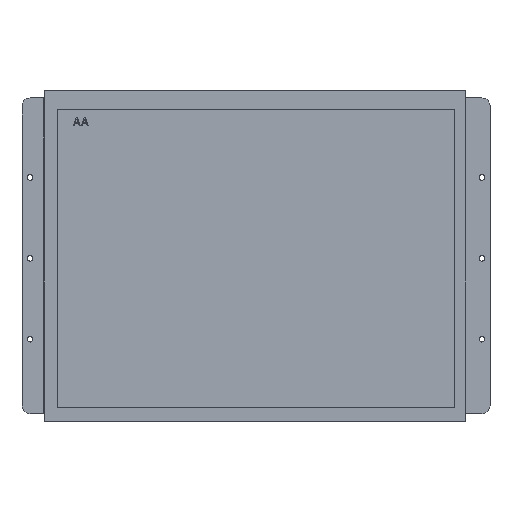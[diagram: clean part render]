
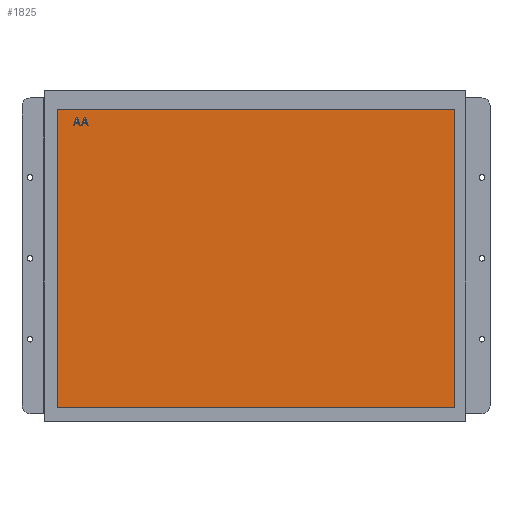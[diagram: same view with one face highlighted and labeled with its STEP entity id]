
A CAD part, top view. The second image highlights one B-rep face of the part: STEP entity #1825.
In plain terms, the highlighted planar face has unit normal (0, 0, 1).
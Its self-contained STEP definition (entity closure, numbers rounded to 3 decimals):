
#547=DIRECTION('',(0.,-1.,0.));
#548=VECTOR('',#547,184.32);
#549=CARTESIAN_POINT('',(-122.88,92.15,6.55));
#550=LINE('',#549,#548);
#551=DIRECTION('',(-1.,0.,0.));
#552=VECTOR('',#551,245.76);
#553=CARTESIAN_POINT('',(122.88,92.15,6.55));
#554=LINE('',#553,#552);
#555=DIRECTION('',(0.,1.,0.));
#556=VECTOR('',#555,184.32);
#557=CARTESIAN_POINT('',(122.88,-92.17,6.55));
#558=LINE('',#557,#556);
#559=DIRECTION('',(1.,0.,0.));
#560=VECTOR('',#559,245.76);
#561=CARTESIAN_POINT('',(-122.88,-92.17,6.55));
#562=LINE('',#561,#560);
#563=DIRECTION('',(0.316,-0.949,0.));
#564=VECTOR('',#563,5.27);
#565=CARTESIAN_POINT('',(-110.38,87.15,6.55));
#566=LINE('',#565,#564);
#567=DIRECTION('',(1.,0.,0.));
#568=VECTOR('',#567,0.833);
#569=CARTESIAN_POINT('',(-111.213,87.15,6.55));
#570=LINE('',#569,#568);
#571=DIRECTION('',(0.316,0.949,0.));
#572=VECTOR('',#571,5.27);
#573=CARTESIAN_POINT('',(-112.88,82.15,6.55));
#574=LINE('',#573,#572);
#575=DIRECTION('',(-1.,0.,0.));
#576=VECTOR('',#575,0.625);
#577=CARTESIAN_POINT('',(-112.255,82.15,6.55));
#578=LINE('',#577,#576);
#579=DIRECTION('',(-0.31,-0.951,0.));
#580=VECTOR('',#579,1.343);
#581=CARTESIAN_POINT('',(-111.838,83.427,6.55));
#582=LINE('',#581,#580);
#583=DIRECTION('',(-1.,0.,0.));
#584=VECTOR('',#583,2.083);
#585=CARTESIAN_POINT('',(-109.755,83.427,6.55));
#586=LINE('',#585,#584);
#587=DIRECTION('',(-0.31,0.951,0.));
#588=VECTOR('',#587,1.343);
#589=CARTESIAN_POINT('',(-109.338,82.15,6.55));
#590=LINE('',#589,#588);
#591=DIRECTION('',(-1.,0.,0.));
#592=VECTOR('',#591,0.625);
#593=CARTESIAN_POINT('',(-108.713,82.15,6.55));
#594=LINE('',#593,#592);
#607=DIRECTION('',(0.316,-0.949,0.));
#608=VECTOR('',#607,5.27);
#609=CARTESIAN_POINT('',(-105.38,87.15,6.55));
#610=LINE('',#609,#608);
#611=DIRECTION('',(1.,0.,0.));
#612=VECTOR('',#611,0.833);
#613=CARTESIAN_POINT('',(-106.213,87.15,6.55));
#614=LINE('',#613,#612);
#615=DIRECTION('',(0.316,0.949,0.));
#616=VECTOR('',#615,5.27);
#617=CARTESIAN_POINT('',(-107.88,82.15,6.55));
#618=LINE('',#617,#616);
#619=DIRECTION('',(-1.,0.,0.));
#620=VECTOR('',#619,0.625);
#621=CARTESIAN_POINT('',(-107.255,82.15,6.55));
#622=LINE('',#621,#620);
#623=DIRECTION('',(-0.31,-0.951,0.));
#624=VECTOR('',#623,1.343);
#625=CARTESIAN_POINT('',(-106.838,83.427,6.55));
#626=LINE('',#625,#624);
#627=DIRECTION('',(-1.,0.,0.));
#628=VECTOR('',#627,2.083);
#629=CARTESIAN_POINT('',(-104.755,83.427,6.55));
#630=LINE('',#629,#628);
#631=DIRECTION('',(-0.31,0.951,0.));
#632=VECTOR('',#631,1.343);
#633=CARTESIAN_POINT('',(-104.338,82.15,6.55));
#634=LINE('',#633,#632);
#635=DIRECTION('',(-1.,0.,0.));
#636=VECTOR('',#635,0.625);
#637=CARTESIAN_POINT('',(-103.713,82.15,6.55));
#638=LINE('',#637,#636);
#827=CARTESIAN_POINT('',(-122.88,92.15,6.55));
#828=CARTESIAN_POINT('',(-122.88,-92.17,6.55));
#829=VERTEX_POINT('',#827);
#830=VERTEX_POINT('',#828);
#831=CARTESIAN_POINT('',(122.88,-92.17,6.55));
#832=VERTEX_POINT('',#831);
#833=CARTESIAN_POINT('',(122.88,92.15,6.55));
#834=VERTEX_POINT('',#833);
#843=CARTESIAN_POINT('',(-110.38,87.15,6.55));
#844=CARTESIAN_POINT('',(-108.713,82.15,6.55));
#845=VERTEX_POINT('',#843);
#846=VERTEX_POINT('',#844);
#847=CARTESIAN_POINT('',(-109.338,82.15,6.55));
#848=VERTEX_POINT('',#847);
#849=CARTESIAN_POINT('',(-109.755,83.427,6.55));
#850=VERTEX_POINT('',#849);
#851=CARTESIAN_POINT('',(-111.838,83.427,6.55));
#852=VERTEX_POINT('',#851);
#853=CARTESIAN_POINT('',(-112.255,82.15,6.55));
#854=VERTEX_POINT('',#853);
#855=CARTESIAN_POINT('',(-112.88,82.15,6.55));
#856=VERTEX_POINT('',#855);
#857=CARTESIAN_POINT('',(-111.213,87.15,6.55));
#858=VERTEX_POINT('',#857);
#865=CARTESIAN_POINT('',(-105.38,87.15,6.55));
#866=CARTESIAN_POINT('',(-103.713,82.15,6.55));
#867=VERTEX_POINT('',#865);
#868=VERTEX_POINT('',#866);
#869=CARTESIAN_POINT('',(-104.338,82.15,6.55));
#870=VERTEX_POINT('',#869);
#871=CARTESIAN_POINT('',(-104.755,83.427,6.55));
#872=VERTEX_POINT('',#871);
#873=CARTESIAN_POINT('',(-106.838,83.427,6.55));
#874=VERTEX_POINT('',#873);
#875=CARTESIAN_POINT('',(-107.255,82.15,6.55));
#876=VERTEX_POINT('',#875);
#877=CARTESIAN_POINT('',(-107.88,82.15,6.55));
#878=VERTEX_POINT('',#877);
#879=CARTESIAN_POINT('',(-106.213,87.15,6.55));
#880=VERTEX_POINT('',#879);
#1778=CARTESIAN_POINT('',(-131.,-100.61,6.55));
#1779=DIRECTION('',(0.,0.,1.));
#1780=DIRECTION('',(1.,0.,0.));
#1781=AXIS2_PLACEMENT_3D('',#1778,#1779,#1780);
#1782=PLANE('',#1781);
#1783=ORIENTED_EDGE('',*,*,#1730,.F.);
#1784=ORIENTED_EDGE('',*,*,#1745,.F.);
#1785=ORIENTED_EDGE('',*,*,#1759,.F.);
#1786=ORIENTED_EDGE('',*,*,#1772,.F.);
#1787=EDGE_LOOP('',(#1783,#1784,#1785,#1786));
#1788=FACE_OUTER_BOUND('',#1787,.F.);
#1790=ORIENTED_EDGE('',*,*,#1789,.F.);
#1792=ORIENTED_EDGE('',*,*,#1791,.F.);
#1794=ORIENTED_EDGE('',*,*,#1793,.F.);
#1796=ORIENTED_EDGE('',*,*,#1795,.F.);
#1798=ORIENTED_EDGE('',*,*,#1797,.F.);
#1800=ORIENTED_EDGE('',*,*,#1799,.F.);
#1802=ORIENTED_EDGE('',*,*,#1801,.F.);
#1804=ORIENTED_EDGE('',*,*,#1803,.F.);
#1805=EDGE_LOOP('',(#1790,#1792,#1794,#1796,#1798,#1800,#1802,#1804));
#1806=FACE_BOUND('',#1805,.F.);
#1808=ORIENTED_EDGE('',*,*,#1807,.F.);
#1810=ORIENTED_EDGE('',*,*,#1809,.F.);
#1812=ORIENTED_EDGE('',*,*,#1811,.F.);
#1814=ORIENTED_EDGE('',*,*,#1813,.F.);
#1816=ORIENTED_EDGE('',*,*,#1815,.F.);
#1818=ORIENTED_EDGE('',*,*,#1817,.F.);
#1820=ORIENTED_EDGE('',*,*,#1819,.F.);
#1822=ORIENTED_EDGE('',*,*,#1821,.F.);
#1823=EDGE_LOOP('',(#1808,#1810,#1812,#1814,#1816,#1818,#1820,#1822));
#1824=FACE_BOUND('',#1823,.F.);
#1730=EDGE_CURVE('',#829,#830,#550,.T.);
#1745=EDGE_CURVE('',#834,#829,#554,.T.);
#1759=EDGE_CURVE('',#832,#834,#558,.T.);
#1772=EDGE_CURVE('',#830,#832,#562,.T.);
#1789=EDGE_CURVE('',#845,#846,#566,.T.);
#1791=EDGE_CURVE('',#858,#845,#570,.T.);
#1793=EDGE_CURVE('',#856,#858,#574,.T.);
#1795=EDGE_CURVE('',#854,#856,#578,.T.);
#1797=EDGE_CURVE('',#852,#854,#582,.T.);
#1799=EDGE_CURVE('',#850,#852,#586,.T.);
#1801=EDGE_CURVE('',#848,#850,#590,.T.);
#1803=EDGE_CURVE('',#846,#848,#594,.T.);
#1807=EDGE_CURVE('',#867,#868,#610,.T.);
#1809=EDGE_CURVE('',#880,#867,#614,.T.);
#1811=EDGE_CURVE('',#878,#880,#618,.T.);
#1813=EDGE_CURVE('',#876,#878,#622,.T.);
#1815=EDGE_CURVE('',#874,#876,#626,.T.);
#1817=EDGE_CURVE('',#872,#874,#630,.T.);
#1819=EDGE_CURVE('',#870,#872,#634,.T.);
#1821=EDGE_CURVE('',#868,#870,#638,.T.);
#1825=ADVANCED_FACE('',(#1788,#1806,#1824),#1782,.T.);
